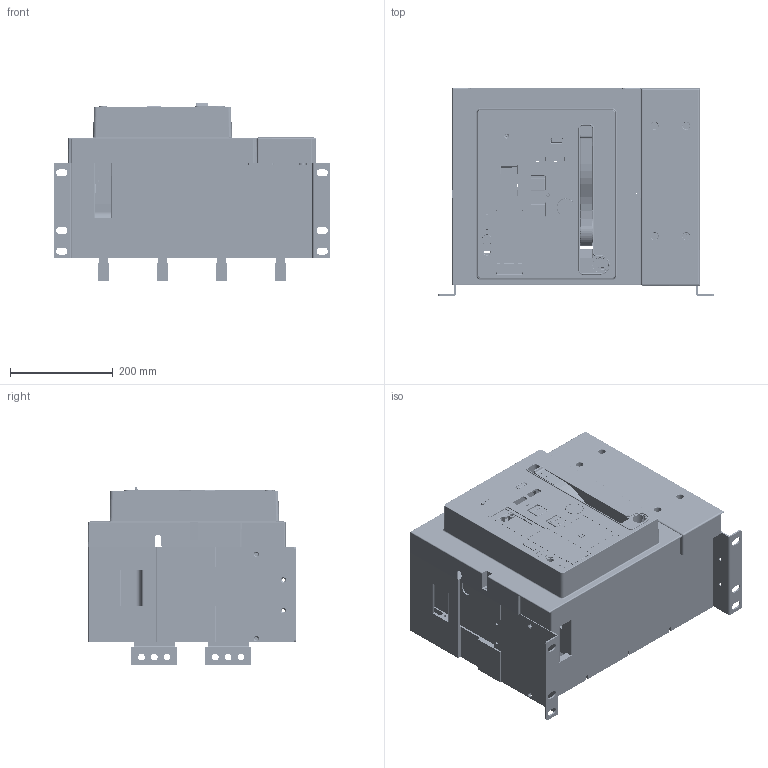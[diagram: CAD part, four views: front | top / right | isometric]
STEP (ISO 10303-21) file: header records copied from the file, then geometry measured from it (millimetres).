
FILE_DESCRIPTION((''),'2;1');
FILE_NAME('HG_14_B324V_FIX_ASM_ASM_ASM','2019-03-29T',('HHI'),(''),'PRO/ENGINEER BY PARAMETRIC TECHNOLOGY CORPORATION, 2012453','PRO/ENGINEER BY PARAMETRIC TECHNOLOGY CORPORATION, 2012453','');
FILE_SCHEMA(('CONFIG_CONTROL_DESIGN'));
Products named in the file (27): PRT0476; PRT0477; PRT0478; PRT0479; PRT0480; PRT0481; PRT0482; ASM0055_ASM_ASM; PRT0483; PRT0484; PRT0485; ASM0056_ASM_ASM; PRT0486; PRT0487; ASM0054_ASM_ASM; PRT0488; ASM0053_ASM_ASM; PRT0489; PRT0490; ASM0052_ASM_ASM; PRT0491; B324V_FIX_ASM_2_ASM_ASM; PRT0492; PRT0493; PRT0494; ASM0082_ASM; HG_14_B324V_FIX_ASM_ASM_ASM
Assembly tree (36 placements, depth 8):
  HG_14_B324V_FIX_ASM_ASM_ASM
    ASM0082_ASM
      B324V_FIX_ASM_2_ASM_ASM
        ASM0052_ASM_ASM
          PRT0476
          PRT0477
          PRT0478  x4
          ASM0053_ASM_ASM
            ASM0054_ASM_ASM
              ASM0055_ASM_ASM
                PRT0479
                PRT0480
                PRT0481
                PRT0482
              ASM0056_ASM_ASM
                PRT0483
                PRT0484
                PRT0485
              PRT0486
              PRT0487
            PRT0488
          PRT0489
          PRT0490
        PRT0491  x8
      PRT0492
      PRT0493
      PRT0494
Bounding box: 539.4 x 405.08 x 346.23 mm (x, y, z)
Volume: 9626552 mm3; surface area: 3493983.3 mm2
Topology: 29 solids, 35 shells, 7995 faces, 22338 edges, 14530 vertices
Faces by surface type: plane 4969, cylinder 2300, torus 275, extrusion 139, sphere 118, cone 117, bspline 77
Entity records: 252262 total; most frequent: CARTESIAN_POINT 51450, ORIENTED_EDGE 42680, DIRECTION 40799, EDGE_CURVE 21348, VECTOR 15463, LINE 15324, VERTEX_POINT 13958, AXIS2_PLACEMENT_3D 12668
